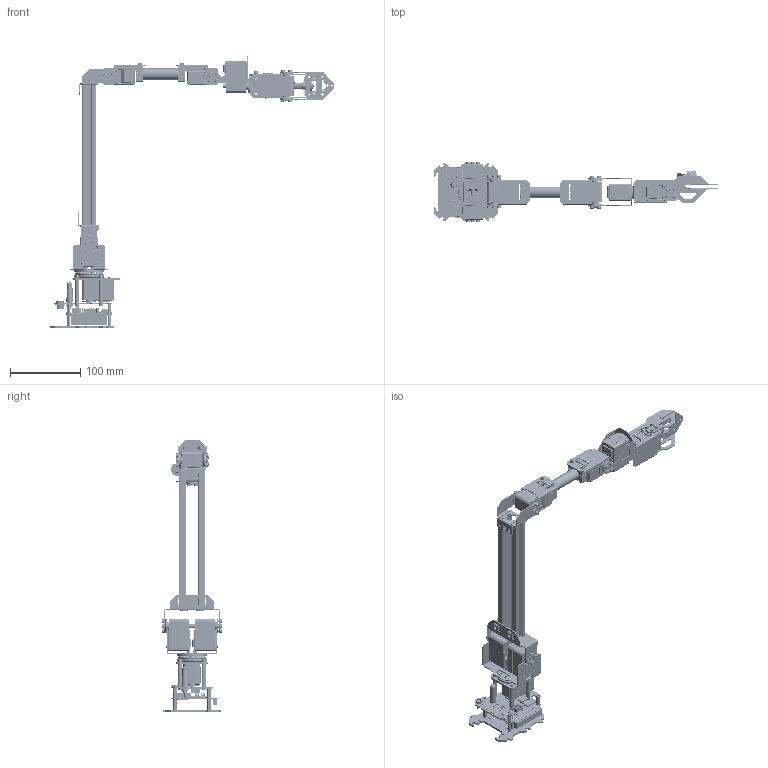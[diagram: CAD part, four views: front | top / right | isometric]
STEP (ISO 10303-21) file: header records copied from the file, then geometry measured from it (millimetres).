
FILE_DESCRIPTION(/* description */ (''),/* implementation_level */ '2;1');
FILE_NAME(/* name */ 'RoArm-M3.step',/* time_stamp */ '2026-02-12T14:47:44+08:00',/* author */ (''),/* organization */ (''),/* preprocessor_version */ 'ST-DEVELOPER v20.1',/* originating_system */ 'Autodesk Translation Framework v14.24.0.0',/* authorisation */ '');
FILE_SCHEMA (('AUTOMOTIVE_DESIGN { 1 0 10303 214 3 1 1 }'));
Products named in the file (745): RoArm-M3-S ASM-TYPE-0(SP); AL-SHOULDER; AL-ELBOW-A; AL-ELBOW-B; AL-BASE; AL-轻量化夹头-活动侧; AL-轻量化夹头-固定侧; AL-轻量化夹头-底座; AL-轻量化底座-A; AL-舵机型材底座-51105轴承定位片; ST3215; General Driver for Robots(1); Board; C7; 432138512; 432138512_1; 432124816; C20; 432124816_1; 432138512_2; 432138512_3; C21; 432124816_2; 432138512_4; 432138512_5; R15; 432124816_3; 432138512_6; 432138512_7; H7; U11; 804367824; U10; TSSOP14; TSSOP14_ËÜÌå; LOGOԲ0.25; Òý½Å_0.9; U9; 676625696; Extruded (6)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
Assembly tree (1296 placements, depth 5):
  RoArm-M3-S ASM-TYPE-0(SP)
    AL-SHOULDER
    AL-ELBOW-A
    AL-ELBOW-B
    AL-BASE
    AL-轻量化夹头-活动侧
    AL-轻量化夹头-固定侧
    AL-轻量化夹头-底座
    AL-轻量化底座-A
    AL-舵机型材底座-51105轴承定位片
    ST3215
      ZK_122
      SG-ZIJI_15
      XG-ZIJI_16
      MOTOR-1723_3
      PCB-CHAZUO_92
      GE_27
      金属舵盘（驱动）
      金属舵盘（从动）
    圆形隔离柱 M3*35  x4
    General Driver for Robots(1)
      Board
      C7
        432138512
          Extruded
        432138512_1
          Extruded
        432124816
          Extruded (1)
      C20
        432124816_1
          Extruded (1)
        432138512_2
          Extruded
        432138512_3
          Extruded
      C21
        432124816_2
          Extruded (1)
        432138512_4
          Extruded
        432138512_5
          Extruded
      R15
        432124816_3
          Extruded (1)
        432138512_6
          Extruded
        432138512_7
          Extruded
      H7
        User_Library-DS1066-04-4MSV6
      U11
        804367824
          Extruded (5)
      U10
        TSSOP14
          TSSOP14_ËÜÌå
          Òý½Å_0.9  x14
          LOGOԲ0.25
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Bounding box: 405.85 x 85.22 x 389.38 mm (x, y, z)
Volume: 463558.4 mm3; surface area: 345623.2 mm2
Topology: 770 solids, 864 shells, 23051 faces, 59303 edges, 38538 vertices
Faces by surface type: plane 13958, cylinder 6598, bspline 1290, torus 529, cone 475, sphere 201
Full cylindrical faces by diameter (mm): 0.013 x1, 0.1 x4, 0.2 x2, 0.5 x5, 0.6 x4, 0.65 x1, 0.7 x12, 0.75 x1, 0.762 x4, 0.8 x12, 0.889 x170, 1 x14, 1.2 x7, 1.5 x8, 1.6 x86, 1.7 x6, 2 x62, 2.1 x1, 2.2 x51, 2.4 x10, 2.5 x245, 2.6 x11, 3 x97, 3.2 x33, 3.35 x30, 3.4 x4, 3.5 x21, 3.678 x10, 4 x7, 4.1 x4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
Entity records: 417178 total; most frequent: CARTESIAN_POINT 139288, DIRECTION 55665, ORIENTED_EDGE 54940, EDGE_CURVE 27470, AXIS2_PLACEMENT_3D 18826, LINE 18013, VECTOR 18013, VERTEX_POINT 18001
